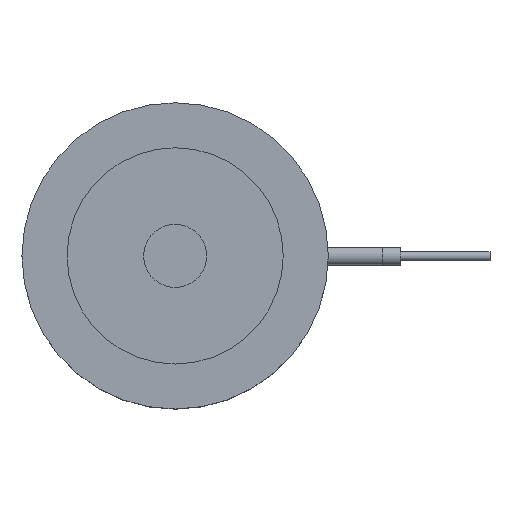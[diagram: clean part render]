
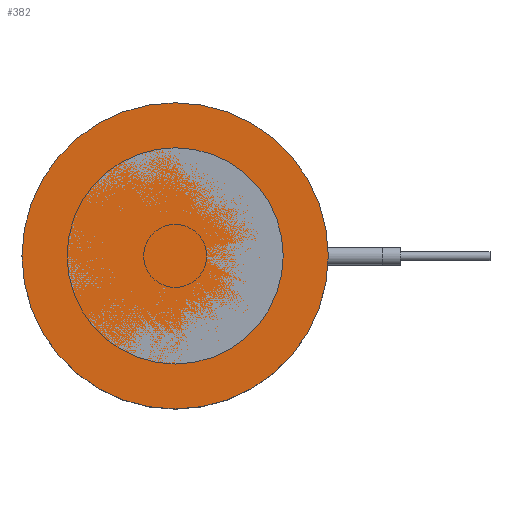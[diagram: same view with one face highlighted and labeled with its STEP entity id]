
A CAD part, top view. The second image highlights one B-rep face of the part: STEP entity #382.
In plain terms, the highlighted planar face has unit normal (0, 0, 1).
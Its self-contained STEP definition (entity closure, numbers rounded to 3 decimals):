
#382=ADVANCED_FACE('',(#480),#422,.F.);
#422=PLANE('',#1293);
#480=FACE_OUTER_BOUND('',#613,.T.);
#613=EDGE_LOOP('',(#841));
#841=ORIENTED_EDGE('',*,*,#1056,.F.);
#941=VERTEX_POINT('',#2065);
#1056=EDGE_CURVE('',#941,#941,#1134,.T.);
#1134=CIRCLE('',#1292,17.);
#1292=AXIS2_PLACEMENT_3D('',#2064,#1637,#1638);
#1293=AXIS2_PLACEMENT_3D('',#2066,#1639,#1640);
#1637=DIRECTION('',(0.,0.,-1.));
#1638=DIRECTION('',(-1.,0.,0.));
#1639=DIRECTION('',(0.,0.,-1.));
#1640=DIRECTION('',(-1.,0.,0.));
#2064=CARTESIAN_POINT('',(0.,0.,0.));
#2065=CARTESIAN_POINT('',(-17.,0.,0.));
#2066=CARTESIAN_POINT('',(0.,0.,0.));
